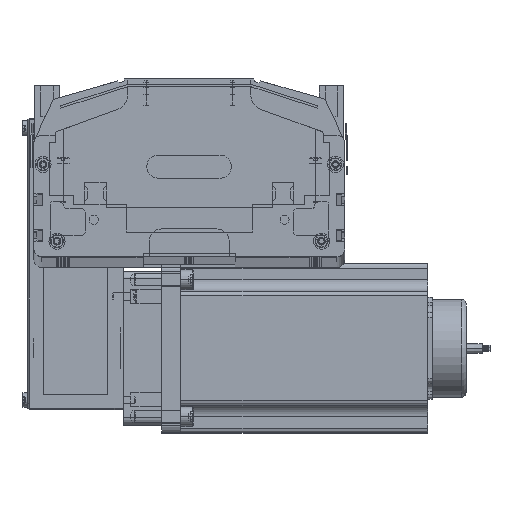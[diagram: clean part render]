
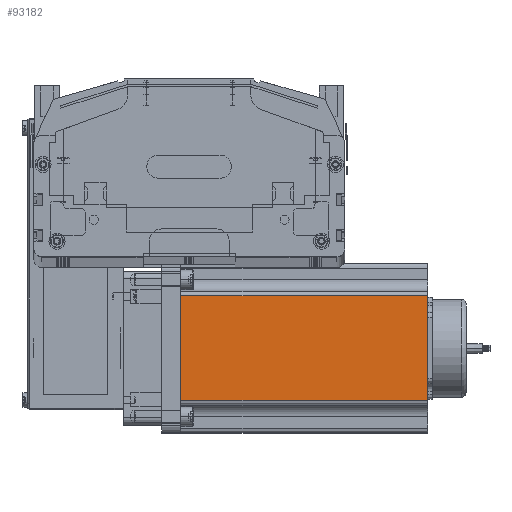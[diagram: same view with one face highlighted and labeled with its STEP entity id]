
A CAD part, top view. The second image highlights one B-rep face of the part: STEP entity #93182.
In plain terms, the highlighted planar face has unit normal (0, 0, 1) as drawn and (0, -1, 0) by its records, which use the part's own axes.
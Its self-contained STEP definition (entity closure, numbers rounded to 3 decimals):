
#52237 = CARTESIAN_POINT ( 'NONE',  ( 21.048, 0., 160.5 ) ) ;
#52258 = DIRECTION ( 'NONE',  ( 1., 0., 0. ) ) ;
#52259 = VECTOR ( 'NONE', #52258, 1000. ) ;
#52267 = CARTESIAN_POINT ( 'NONE',  ( 0., 0., 0. ) ) ;
#52268 = LINE ( 'NONE', #52267, #52259 ) ;
#52335 = LINE ( 'NONE', #52386, #52385 ) ;
#52351 = CARTESIAN_POINT ( 'NONE',  ( 88.952, 0., 0. ) ) ;
#52384 = DIRECTION ( 'NONE',  ( 1., 0., 0. ) ) ;
#52385 = VECTOR ( 'NONE', #52384, 1000. ) ;
#52386 = CARTESIAN_POINT ( 'NONE',  ( 0., 0., 160.5 ) ) ;
#52457 = DIRECTION ( 'NONE',  ( 0., 0., -1. ) ) ;
#52458 = VECTOR ( 'NONE', #52457, 1000. ) ;
#52467 = CARTESIAN_POINT ( 'NONE',  ( 21.048, 0., 160.5 ) ) ;
#52468 = LINE ( 'NONE', #52467, #52458 ) ;
#52472 = DIRECTION ( 'NONE',  ( 0., 0., 1. ) ) ;
#52473 = DIRECTION ( 'NONE',  ( 0., 1., 0. ) ) ;
#52474 = CARTESIAN_POINT ( 'NONE',  ( 0., 0., 160.5 ) ) ;
#52475 = CARTESIAN_POINT ( 'NONE',  ( 21.048, 0., 0. ) ) ;
#52481 = AXIS2_PLACEMENT_3D ( 'NONE', #52474, #52473, #52472 ) ;
#52482 = FACE_OUTER_BOUND ( 'NONE', #93567, .T. ) ;
#52484 = PLANE ( 'NONE',  #52481 ) ;
#52822 = DIRECTION ( 'NONE',  ( 0., 0., 1. ) ) ;
#52823 = VECTOR ( 'NONE', #52822, 1000. ) ;
#52824 = CARTESIAN_POINT ( 'NONE',  ( 88.952, 0., 160.5 ) ) ;
#52825 = LINE ( 'NONE', #52824, #52823 ) ;
#53037 = CARTESIAN_POINT ( 'NONE',  ( 88.952, 0., 160.5 ) ) ;
#93024 = VERTEX_POINT ( 'NONE', #52237 ) ;
#93029 = ORIENTED_EDGE ( 'NONE', *, *, #93091, .F. ) ;
#93031 = ORIENTED_EDGE ( 'NONE', *, *, #93191, .T. ) ;
#93043 = EDGE_CURVE ( 'NONE', #93184, #93085, #52268, .T. ) ;
#93085 = VERTEX_POINT ( 'NONE', #52351 ) ;
#93091 = EDGE_CURVE ( 'NONE', #93024, #93625, #52335, .T. ) ;
#93182 = ADVANCED_FACE ( 'NONE', ( #52482 ), #52484, .F. ) ;
#93184 = VERTEX_POINT ( 'NONE', #52475 ) ;
#93191 = EDGE_CURVE ( 'NONE', #93024, #93184, #52468, .T. ) ;
#93560 = EDGE_CURVE ( 'NONE', #93085, #93625, #52825, .T. ) ;
#93567 = EDGE_LOOP ( 'NONE', ( #93740, #93643, #93029, #93031 ) ) ;
#93625 = VERTEX_POINT ( 'NONE', #53037 ) ;
#93643 = ORIENTED_EDGE ( 'NONE', *, *, #93560, .T. ) ;
#93740 = ORIENTED_EDGE ( 'NONE', *, *, #93043, .T. ) ;
